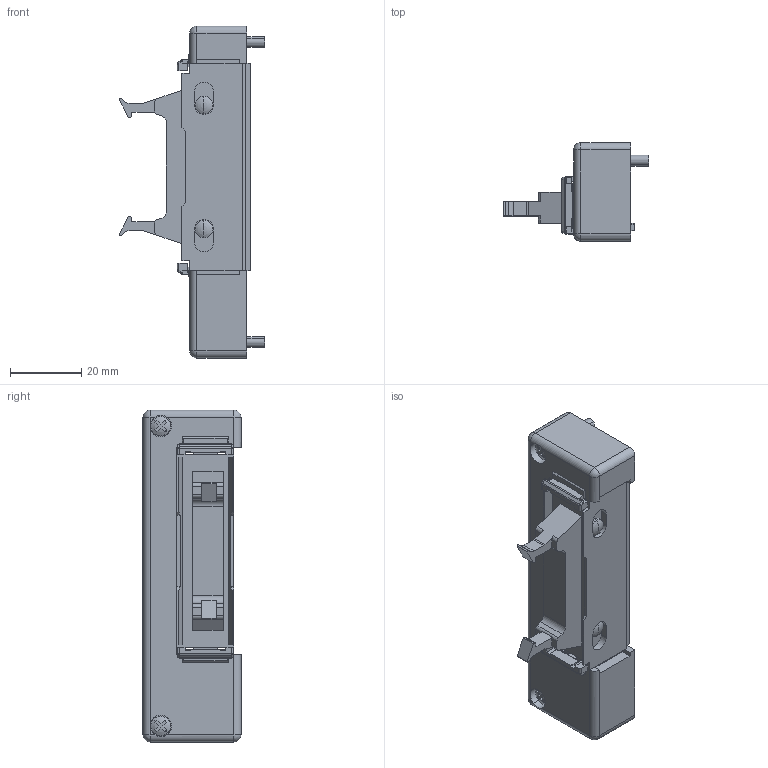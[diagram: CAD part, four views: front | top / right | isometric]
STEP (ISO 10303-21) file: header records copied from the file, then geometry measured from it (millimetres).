
FILE_DESCRIPTION( (''), '2;1');
FILE_NAME ('CVICAD02.288.FZX-F20xN-E_11605.stp','2020-08-31T10:47:31',(''),(''),'spGate 12.6.6','','');
FILE_SCHEMA (('AUTOMOTIVE_DESIGN'));
Length unit declared in the file: millimetre
Products named in the file (3): Assembly; CVICAD02-prt0; CVICAD02-prt1
Assembly tree (2 placements, depth 2):
  Assembly
    CVICAD02-prt0
    CVICAD02-prt1
Bounding box: 40.7 x 27.5 x 93 mm (x, y, z)
Volume: 36222.5 mm3; surface area: 14522.4 mm2
Topology: 2 solids, 2 shells, 327 faces, 952 edges, 610 vertices
Faces by surface type: plane 225, cylinder 77, sphere 20, bspline 5
Entity records: 18088 total; most frequent: CARTESIAN_POINT 2093, ORIENTED_EDGE 1872, DIRECTION 1764, COLOUR_RGB 1265, PRESENTATION_STYLE_ASSIGNMENT 1265, STYLED_ITEM 1265, EDGE_CURVE 936, DRAUGHTING_PRE_DEFINED_CURVE_FONT 936
